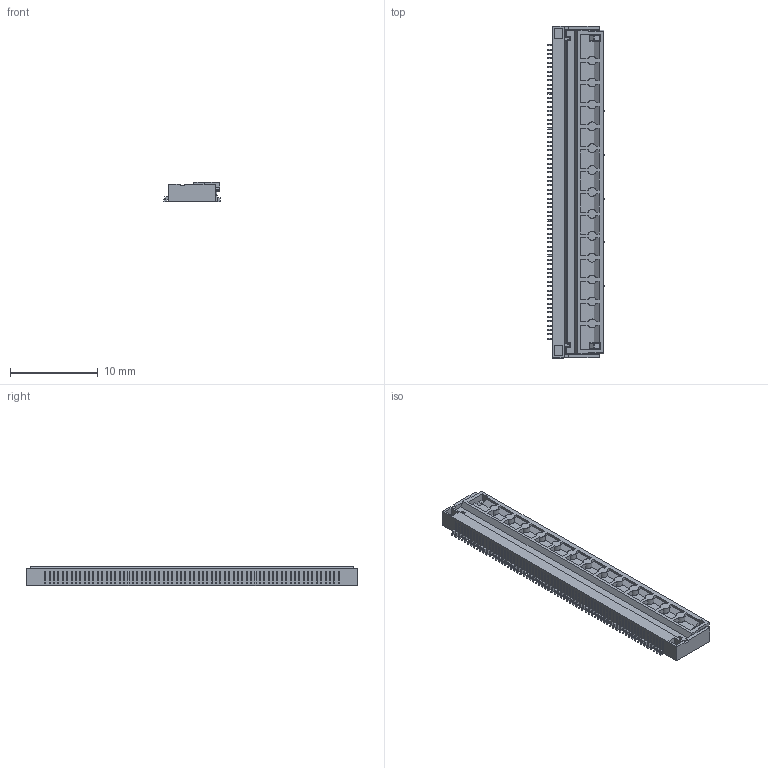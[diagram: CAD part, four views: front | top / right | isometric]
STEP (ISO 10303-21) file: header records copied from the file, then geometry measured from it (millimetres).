
FILE_DESCRIPTION (( 'STEP AP214' ), '1' );
FILE_NAME ('04_6892_668_X01_XXX_X.STEP', '2023-03-01T05:00:24', ( '' ), ( '' ), 'SwSTEP 2.0', 'SolidWorks 2021', '' );
FILE_SCHEMA (( 'AUTOMOTIVE_DESIGN' ));
Length unit declared in the file: millimetre
Products named in the file (1): 04_6892_668_X01_XXX_X
Bounding box: 6.5 x 37.9 x 2.2 mm (x, y, z)
Volume: 292 mm3; surface area: 1194.2 mm2
Topology: 1 solids, 1 shells, 1632 faces, 4642 edges, 3090 vertices
Faces by surface type: plane 1131, cylinder 475, bspline 26
Entity records: 53620 total; most frequent: CARTESIAN_POINT 10327, ORIENTED_EDGE 9284, DIRECTION 8730, EDGE_CURVE 4642, VECTOR 3612, LINE 3612, VERTEX_POINT 3090, AXIS2_PLACEMENT_3D 2559
